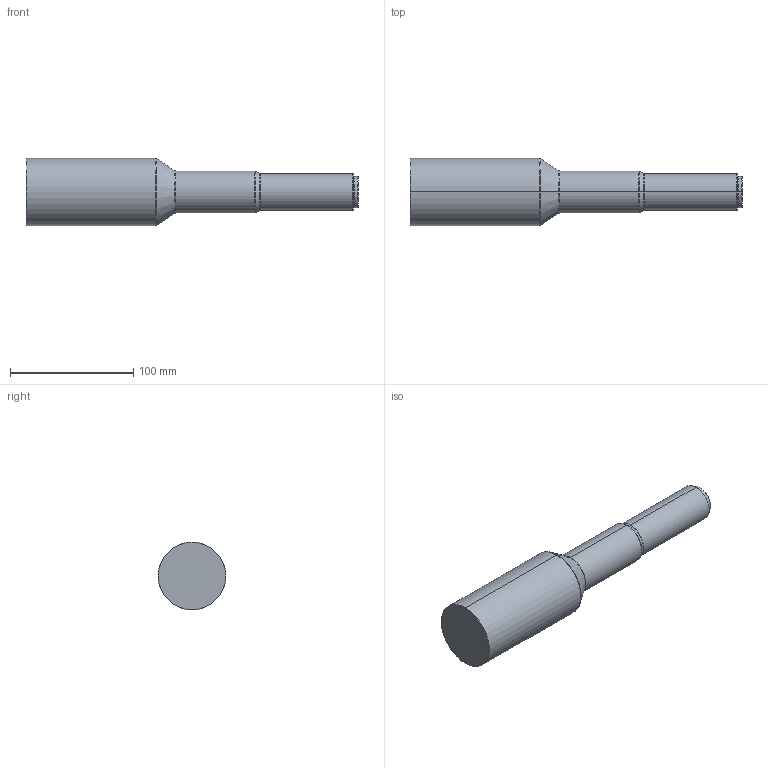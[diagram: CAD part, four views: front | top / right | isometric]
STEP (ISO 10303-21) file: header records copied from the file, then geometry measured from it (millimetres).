
FILE_DESCRIPTION (( 'STEP AP203' ), '1' );
FILE_NAME ('WWH20-300AT-230V2.STEP', '2021-10-15T09:25:50', ( '' ), ( '' ), 'SwSTEP 2.0', 'SolidWorks 2017', '' );
FILE_SCHEMA (( 'CONFIG_CONTROL_DESIGN' ));
Length unit declared in the file: millimetre
Products named in the file (1): WWH20-300AT-230V2
Bounding box: 269.3 x 55 x 55 mm (x, y, z)
Volume: 392665.4 mm3; surface area: 38749.1 mm2
Topology: 1 solids, 1 shells, 32 faces, 62 edges, 34 vertices
Faces by surface type: cone 10, cylinder 10, torus 8, plane 4
Entity records: 889 total; most frequent: DIRECTION 170, CARTESIAN_POINT 129, ORIENTED_EDGE 124, AXIS2_PLACEMENT_3D 75, EDGE_CURVE 62, CIRCLE 42, EDGE_LOOP 34, VERTEX_POINT 34
